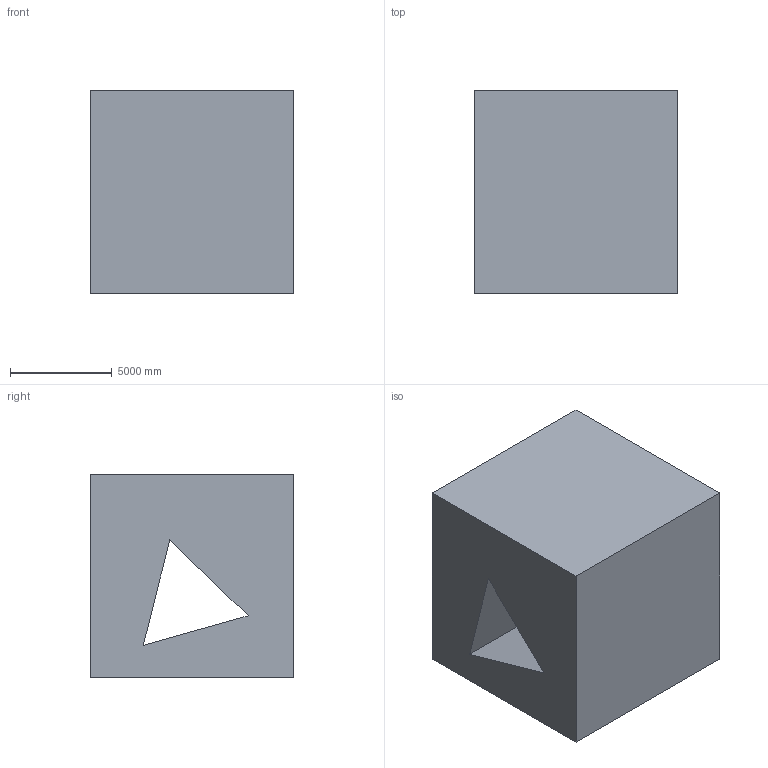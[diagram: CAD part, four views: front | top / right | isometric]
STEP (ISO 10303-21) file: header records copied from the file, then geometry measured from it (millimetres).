
FILE_DESCRIPTION (( 'STEP AP203' ), '1' );
FILE_NAME ('1005.STEP', '2022-08-18T12:23:29', ( 'user' ), ( '' ), 'SwSTEP 2.0', 'SolidWorks 2021', '' );
FILE_SCHEMA (( 'CONFIG_CONTROL_DESIGN' ));
Length unit declared in the file: centimetre
Products named in the file (1): 1005
Bounding box: 10000 x 10000 x 10000 mm (x, y, z)
Volume: 805899046007.7 mm3; surface area: 745206539.4 mm2
Topology: 1 solids, 1 shells, 13 faces, 33 edges, 22 vertices
Faces by surface type: plane 11, cylinder 2
Entity records: 472 total; most frequent: CARTESIAN_POINT 69, ORIENTED_EDGE 66, DIRECTION 65, EDGE_CURVE 33, VECTOR 29, LINE 29, VERTEX_POINT 22, AXIS2_PLACEMENT_3D 18
